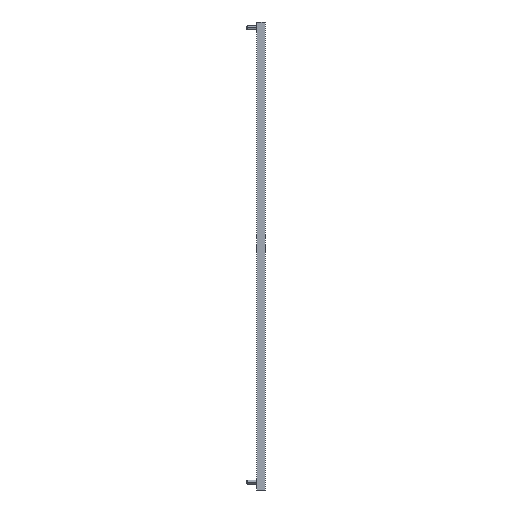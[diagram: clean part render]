
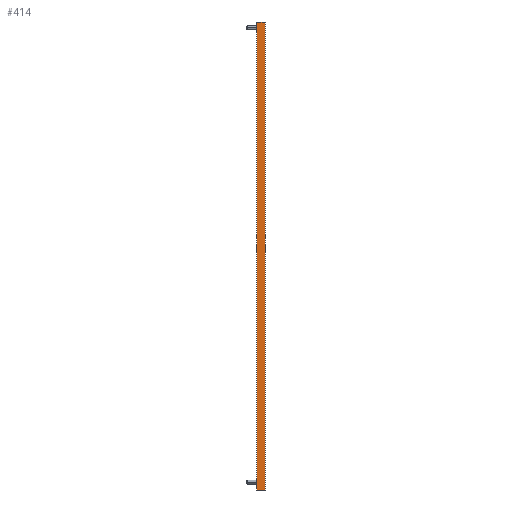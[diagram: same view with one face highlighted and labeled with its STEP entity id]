
A CAD part, left-side view. The second image highlights one B-rep face of the part: STEP entity #414.
In plain terms, the highlighted planar face has unit normal (-1, 0, 0).
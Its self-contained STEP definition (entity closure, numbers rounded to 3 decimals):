
#51 = VECTOR ( 'NONE', #2269, 1000. ) ;
#148 = VECTOR ( 'NONE', #258, 1000. ) ;
#168 = LINE ( 'NONE', #1171, #828 ) ;
#179 = VECTOR ( 'NONE', #2996, 1000. ) ;
#258 = DIRECTION ( 'NONE',  ( 0., 0., 1. ) ) ;
#293 = DIRECTION ( 'NONE',  ( 0., -1., 0. ) ) ;
#307 = DIRECTION ( 'NONE',  ( -1., 0., 0. ) ) ;
#346 = DIRECTION ( 'NONE',  ( 0., -1., 0. ) ) ;
#376 = EDGE_CURVE ( 'NONE', #1135, #1804, #2087, .T. ) ;
#414 = ADVANCED_FACE ( 'NONE', ( #598 ), #1070, .T. ) ;
#433 = EDGE_CURVE ( 'NONE', #2204, #2447, #1802, .T. ) ;
#451 = EDGE_CURVE ( 'NONE', #1804, #3044, #2795, .T. ) ;
#461 = DIRECTION ( 'NONE',  ( 0., 0., 1. ) ) ;
#598 = FACE_OUTER_BOUND ( 'NONE', #1123, .T. ) ;
#630 = ORIENTED_EDGE ( 'NONE', *, *, #1022, .T. ) ;
#677 = ORIENTED_EDGE ( 'NONE', *, *, #451, .T. ) ;
#824 = CARTESIAN_POINT ( 'NONE',  ( -8., 0., 679. ) ) ;
#828 = VECTOR ( 'NONE', #1223, 1000. ) ;
#902 = ORIENTED_EDGE ( 'NONE', *, *, #2370, .T. ) ;
#1022 = EDGE_CURVE ( 'NONE', #1977, #1135, #168, .T. ) ;
#1033 = CARTESIAN_POINT ( 'NONE',  ( -8., 0., 0. ) ) ;
#1036 = CARTESIAN_POINT ( 'NONE',  ( -8., 0., 679. ) ) ;
#1054 = DIRECTION ( 'NONE',  ( 0., -1., 0. ) ) ;
#1070 = PLANE ( 'NONE',  #2412 ) ;
#1075 = LINE ( 'NONE', #2071, #3040 ) ;
#1076 = LINE ( 'NONE', #824, #51 ) ;
#1109 = ORIENTED_EDGE ( 'NONE', *, *, #1297, .T. ) ;
#1123 = EDGE_LOOP ( 'NONE', ( #2977, #630, #1571, #677, #902, #1109, #1197, #1777 ) ) ;
#1135 = VERTEX_POINT ( 'NONE', #1288 ) ;
#1171 = CARTESIAN_POINT ( 'NONE',  ( -8., 0., 0. ) ) ;
#1197 = ORIENTED_EDGE ( 'NONE', *, *, #3032, .T. ) ;
#1223 = DIRECTION ( 'NONE',  ( 0., -1., 0. ) ) ;
#1272 = VERTEX_POINT ( 'NONE', #1684 ) ;
#1288 = CARTESIAN_POINT ( 'NONE',  ( -8., 9.3, 0. ) ) ;
#1297 = EDGE_CURVE ( 'NONE', #2699, #1272, #1075, .T. ) ;
#1324 = CARTESIAN_POINT ( 'NONE',  ( -8., 0., 0. ) ) ;
#1571 = ORIENTED_EDGE ( 'NONE', *, *, #376, .T. ) ;
#1684 = CARTESIAN_POINT ( 'NONE',  ( -8., 3.2, 679. ) ) ;
#1734 = CARTESIAN_POINT ( 'NONE',  ( -8., 12.5, 679. ) ) ;
#1741 = LINE ( 'NONE', #1989, #179 ) ;
#1774 = EDGE_CURVE ( 'NONE', #1977, #2204, #2955, .T. ) ;
#1777 = ORIENTED_EDGE ( 'NONE', *, *, #433, .F. ) ;
#1802 = LINE ( 'NONE', #3041, #2738 ) ;
#1804 = VERTEX_POINT ( 'NONE', #2989 ) ;
#1943 = CARTESIAN_POINT ( 'NONE',  ( -8., 12.5, 679. ) ) ;
#1977 = VERTEX_POINT ( 'NONE', #2817 ) ;
#1989 = CARTESIAN_POINT ( 'NONE',  ( -8., 0., 679. ) ) ;
#2071 = CARTESIAN_POINT ( 'NONE',  ( -8., 0., 679. ) ) ;
#2087 = LINE ( 'NONE', #1033, #2999 ) ;
#2204 = VERTEX_POINT ( 'NONE', #1943 ) ;
#2269 = DIRECTION ( 'NONE',  ( 0., 0., 1. ) ) ;
#2317 = CARTESIAN_POINT ( 'NONE',  ( -8., 0., 0. ) ) ;
#2370 = EDGE_CURVE ( 'NONE', #3044, #2699, #1076, .T. ) ;
#2412 = AXIS2_PLACEMENT_3D ( 'NONE', #1036, #307, #461 ) ;
#2447 = VERTEX_POINT ( 'NONE', #2864 ) ;
#2699 = VERTEX_POINT ( 'NONE', #2768 ) ;
#2738 = VECTOR ( 'NONE', #293, 1000. ) ;
#2768 = CARTESIAN_POINT ( 'NONE',  ( -8., 0., 679. ) ) ;
#2795 = LINE ( 'NONE', #1324, #3002 ) ;
#2817 = CARTESIAN_POINT ( 'NONE',  ( -8., 12.5, 0. ) ) ;
#2864 = CARTESIAN_POINT ( 'NONE',  ( -8., 9.3, 679. ) ) ;
#2955 = LINE ( 'NONE', #1734, #148 ) ;
#2977 = ORIENTED_EDGE ( 'NONE', *, *, #1774, .F. ) ;
#2989 = CARTESIAN_POINT ( 'NONE',  ( -8., 3.2, 0. ) ) ;
#2996 = DIRECTION ( 'NONE',  ( 0., 1., 0. ) ) ;
#2999 = VECTOR ( 'NONE', #346, 1000. ) ;
#3002 = VECTOR ( 'NONE', #1054, 1000. ) ;
#3032 = EDGE_CURVE ( 'NONE', #1272, #2447, #1741, .T. ) ;
#3040 = VECTOR ( 'NONE', #3078, 1000. ) ;
#3041 = CARTESIAN_POINT ( 'NONE',  ( -8., 12.5, 679. ) ) ;
#3044 = VERTEX_POINT ( 'NONE', #2317 ) ;
#3078 = DIRECTION ( 'NONE',  ( 0., 1., 0. ) ) ;
